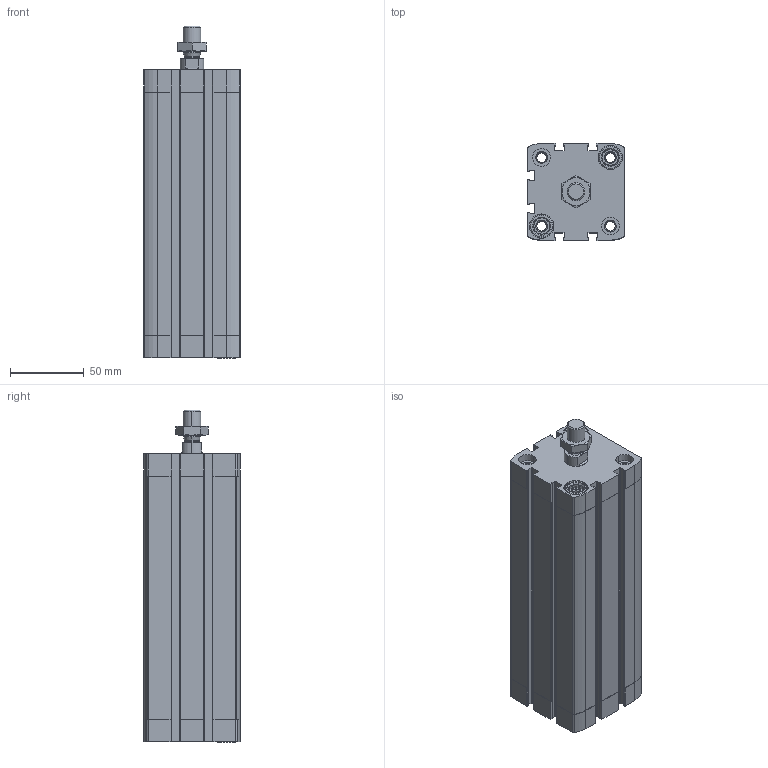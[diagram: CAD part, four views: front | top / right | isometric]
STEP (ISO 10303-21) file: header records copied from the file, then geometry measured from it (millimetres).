
FILE_DESCRIPTION (( 'STEP AP203' ), '1' );
FILE_NAME ('CCN50-150M.STEP', '2017-04-05T13:40:33', ( '' ), ( '' ), 'SwSTEP 2.0', 'SolidWorks 2016', '' );
FILE_SCHEMA (( 'CONFIG_CONTROL_DESIGN' ));
Length unit declared in the file: millimetre
Products named in the file (4): CCN-150---(Z); CCN-150_(KS); _DIN-439-B - M12x1.25(F); CCN50-150M
Assembly tree (3 placements, depth 2):
  CCN50-150M
    CCN-150---(Z)
    CCN-150_(KS)
    _DIN-439-B - M12x1.25(F)
Bounding box: 65.5 x 65.5 x 224.7 mm (x, y, z)
Volume: 489952.1 mm3; surface area: 137999.5 mm2
Topology: 3 solids, 3 shells, 491 faces, 1324 edges, 870 vertices
Faces by surface type: plane 227, cylinder 212, cone 48, bspline 4
Entity records: 16152 total; most frequent: CARTESIAN_POINT 3151, DIRECTION 2688, ORIENTED_EDGE 2648, EDGE_CURVE 1324, AXIS2_PLACEMENT_3D 985, VERTEX_POINT 870, LINE 718, VECTOR 718
